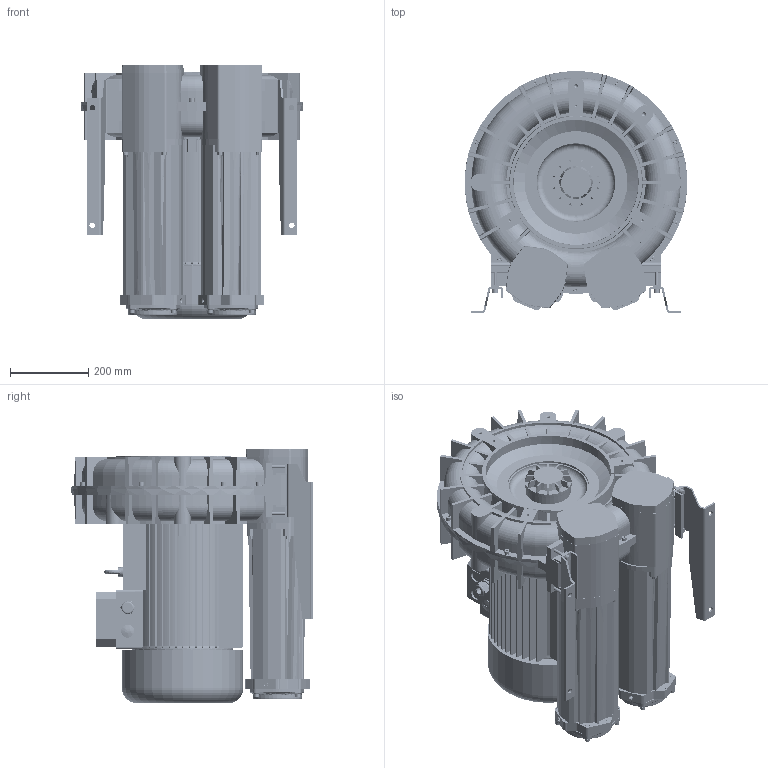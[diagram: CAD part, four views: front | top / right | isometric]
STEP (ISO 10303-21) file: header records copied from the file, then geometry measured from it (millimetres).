
FILE_DESCRIPTION (( 'STEP AP203' ), '1' );
FILE_NAME ('STP-L_e_11_MS_MOR_IE3WR_160_18.5kW-3_24-00.step', '2025-01-14T09:26:06', ( '' ), ( '' ), 'SwSTEP 2.0', 'SolidWorks 2024', '' );
FILE_SCHEMA (( 'CONFIG_CONTROL_DESIGN' ));
Length unit declared in the file: millimetre
Products named in the file (1): STP-L_e_11_MS_MOR_IE3WR_160_18.5kW-3_24-00
Bounding box: 568 x 616 x 649.5 mm (x, y, z)
Volume: 79003944.7 mm3; surface area: 4318806.9 mm2
Topology: 91 solids, 91 shells, 6294 faces, 16069 edges, 9957 vertices
Faces by surface type: plane 2065, cylinder 1968, bspline 1049, torus 579, cone 576, sphere 57
Full cylindrical faces by diameter (mm): 6.8 x28, 7.5 x4, 8 x33, 8.4 x29, 8.5 x10, 8.566 x2, 8.8 x4, 9.98 x2, 10 x7, 11 x12, 12 x2, 12.02 x2, 13 x46, 14 x14, 16 x12, 16.5 x2, 18 x1, 24.4 x1, 27 x7, 28 x3, 32.5 x1, 33 x1, 110.4 x2, 115 x2, 120 x1, 128 x2, 207 x3, 250 x2, 257 x1, 310 x1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
Entity records: 297393 total; most frequent: CARTESIAN_POINT 158401, ORIENTED_EDGE 30552, DIRECTION 26419, EDGE_CURVE 15276, AXIS2_PLACEMENT_3D 10261, VERTEX_POINT 9735, EDGE_LOOP 7035, FACE_OUTER_BOUND 6619
